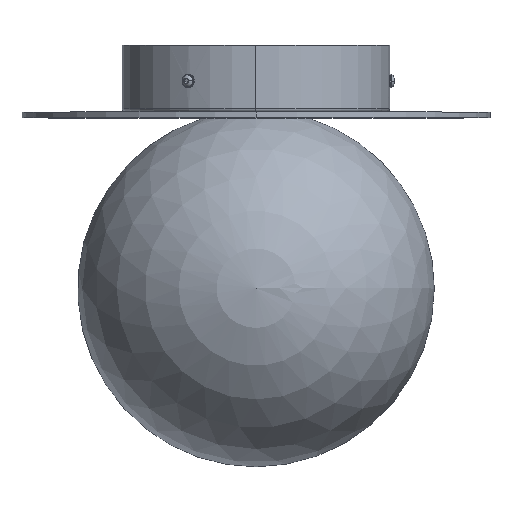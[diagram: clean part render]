
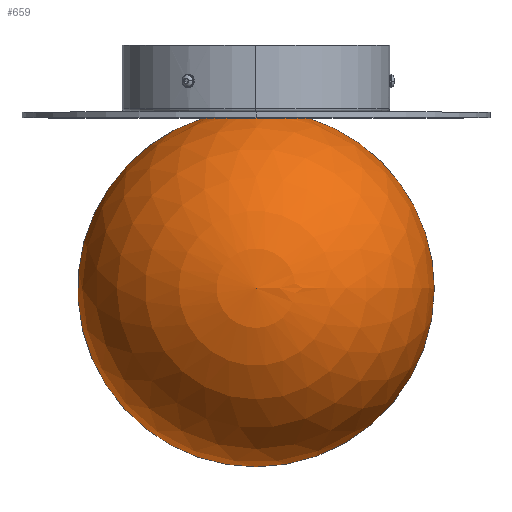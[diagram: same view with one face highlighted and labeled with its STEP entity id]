
A CAD part, top view. The second image highlights one B-rep face of the part: STEP entity #659.
In plain terms, the highlighted spherical face has radius 80 mm.
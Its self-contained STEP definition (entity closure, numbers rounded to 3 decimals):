
#60 = AXIS2_PLACEMENT_3D ( 'NONE', #7487, #732, #6776 ) ;
#86 = EDGE_CURVE ( 'NONE', #5076, #4735, #4061, .T. ) ;
#150 = CARTESIAN_POINT ( 'NONE',  ( 0., -80., 0. ) ) ;
#659 = ADVANCED_FACE ( 'NONE', ( #2109 ), #1443, .T. ) ;
#732 = DIRECTION ( 'NONE',  ( 0., 0., 1. ) ) ;
#1313 = ORIENTED_EDGE ( 'NONE', *, *, #2396, .F. ) ;
#1443 = SPHERICAL_SURFACE ( 'NONE', #2647, 80. ) ;
#1995 = CARTESIAN_POINT ( 'NONE',  ( -24., 76.315, 0. ) ) ;
#2109 = FACE_OUTER_BOUND ( 'NONE', #6237, .T. ) ;
#2396 = EDGE_CURVE ( 'NONE', #5076, #4983, #6104, .T. ) ;
#2647 = AXIS2_PLACEMENT_3D ( 'NONE', #4165, #4248, #4917 ) ;
#2693 = DIRECTION ( 'NONE',  ( 0., 1., 0. ) ) ;
#3293 = DIRECTION ( 'NONE',  ( 0., 0., -1. ) ) ;
#3359 = CARTESIAN_POINT ( 'NONE',  ( 0., 76.315, 0. ) ) ;
#3813 = AXIS2_PLACEMENT_3D ( 'NONE', #4132, #3293, #6867 ) ;
#4061 = CIRCLE ( 'NONE', #60, 80. ) ;
#4132 = CARTESIAN_POINT ( 'NONE',  ( 0., 0., 0. ) ) ;
#4165 = CARTESIAN_POINT ( 'NONE',  ( 0., 0., 0. ) ) ;
#4248 = DIRECTION ( 'NONE',  ( 0., 0., -1. ) ) ;
#4735 = VERTEX_POINT ( 'NONE', #8594 ) ;
#4917 = DIRECTION ( 'NONE',  ( 1., 0., 0. ) ) ;
#4983 = VERTEX_POINT ( 'NONE', #1995 ) ;
#5076 = VERTEX_POINT ( 'NONE', #150 ) ;
#5343 = CIRCLE ( 'NONE', #8462, 24. ) ;
#6104 = CIRCLE ( 'NONE', #3813, 80. ) ;
#6237 = EDGE_LOOP ( 'NONE', ( #1313, #7989, #6539 ) ) ;
#6539 = ORIENTED_EDGE ( 'NONE', *, *, #6610, .F. ) ;
#6610 = EDGE_CURVE ( 'NONE', #4983, #4735, #5343, .T. ) ;
#6776 = DIRECTION ( 'NONE',  ( 1., 0., 0. ) ) ;
#6867 = DIRECTION ( 'NONE',  ( -1., 0., 0. ) ) ;
#7487 = CARTESIAN_POINT ( 'NONE',  ( 0., 0., 0. ) ) ;
#7989 = ORIENTED_EDGE ( 'NONE', *, *, #86, .T. ) ;
#8429 = DIRECTION ( 'NONE',  ( -1., 0., 0. ) ) ;
#8462 = AXIS2_PLACEMENT_3D ( 'NONE', #3359, #2693, #8429 ) ;
#8594 = CARTESIAN_POINT ( 'NONE',  ( 24., 76.315, 0. ) ) ;
